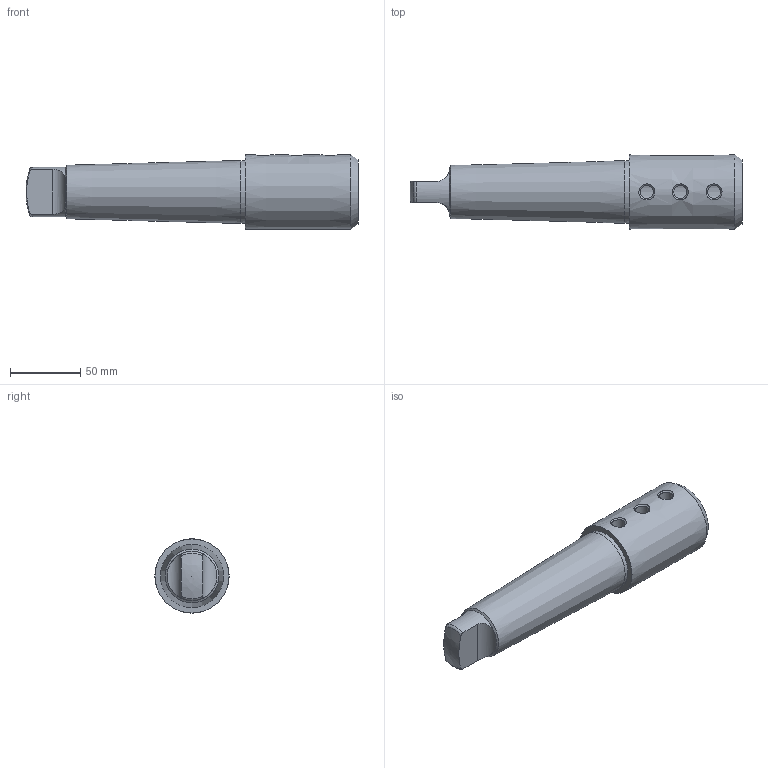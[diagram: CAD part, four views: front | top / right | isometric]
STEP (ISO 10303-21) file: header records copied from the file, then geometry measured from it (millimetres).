
FILE_DESCRIPTION(/* description */ (''),/* implementation_level */ '2;1');
FILE_NAME(/* name */ 'Z:\Проектный отдел\Алена\Патроны\MTA5-SLN35\MTA5-SLN35.stp',/* time_stamp */ '2023-10-31T11:42:00+03:00',/* author */ ('User'),/* organization */ (''),/* preprocessor_version */ 'ST-DEVELOPER v18',/* originating_system */ 'Autodesk Inventor 2020',/* authorisation */ '');
FILE_SCHEMA (('AUTOMOTIVE_DESIGN { 1 0 10303 214 3 1 1 }'));
Length unit declared in the file: millimetre
Products named in the file (1): MTA5-SLN35
Bounding box: 235.51 x 52.7 x 52.7 mm (x, y, z)
Volume: 224137.1 mm3; surface area: 54001.3 mm2
Topology: 1 solids, 1 shells, 30 faces, 93 edges, 64 vertices
Faces by surface type: cylinder 10, cone 8, plane 6, bspline 4, torus 2
Full cylindrical faces by diameter (mm): 9.376 x3, 32 x2, 33 x1
Entity records: 1940 total; most frequent: CARTESIAN_POINT 1024, ORIENTED_EDGE 190, DIRECTION 155, EDGE_CURVE 95, VERTEX_POINT 67, AXIS2_PLACEMENT_3D 63, CIRCLE 36, EDGE_LOOP 36
